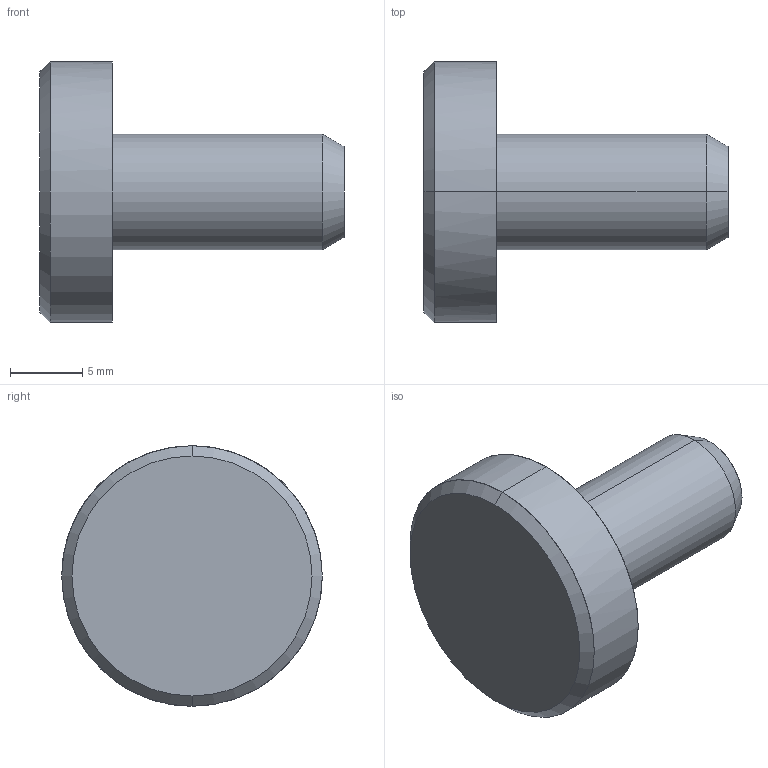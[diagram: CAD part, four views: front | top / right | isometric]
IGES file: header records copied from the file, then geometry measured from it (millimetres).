
Start section: START RECORD GO HERE.
Global section: file name: 382F-18.igs; native system: DASSAULT SYSTEMES CATIA V5 R20 - www.3ds.com; preprocessor: CATIA Version 5 Release 20 ; author: Utente; organization: NB04-ASUS; date: 20210310.200611; units: millimetre
Bounding box: 21 x 18 x 18 mm (x, y, z)
Surface area: 1151.4 mm2 (no closed solid volume)
Topology: 0 solids, 0 shells, 11 faces, 64 edges, 64 vertices
Faces by surface type: revolution 8, plane 3
